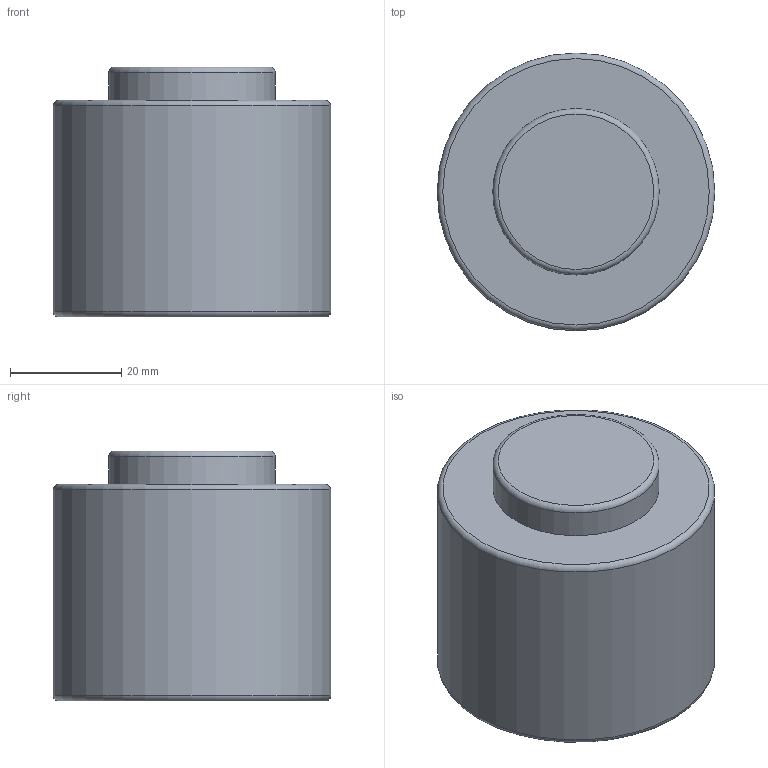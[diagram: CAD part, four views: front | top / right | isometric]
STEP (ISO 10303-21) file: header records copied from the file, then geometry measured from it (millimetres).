
FILE_DESCRIPTION(/* description */ (''),/* implementation_level */ '2;1');
FILE_NAME(/* name */ 'NV5-SMLX.50x5.stp',/* time_stamp */ '2018-08-31T16:08:33+02:00',/* author */ (''),/* organization */ (''),/* preprocessor_version */ 'ST-DEVELOPER v16',/* originating_system */ 'SIEMENS PLM Software NX 10.0',/* authorisation */ '');
FILE_SCHEMA (('AUTOMOTIVE_DESIGN { 1 0 10303 214 3 1 1 1 }'));
Length unit declared in the file: millimetre
Products named in the file (1): NV5-SMLX.50x5
Bounding box: 50 x 50 x 45 mm (x, y, z)
Volume: 79717.8 mm3; surface area: 10905.4 mm2
Topology: 1 solids, 1 shells, 10 faces, 18 edges, 11 vertices
Faces by surface type: cylinder 3, torus 3, plane 3, cone 1
Full cylindrical faces by diameter (mm): 8.5 x1, 30 x1, 50 x1
Entity records: 222 total; most frequent: DIRECTION 40, CARTESIAN_POINT 30, AXIS2_PLACEMENT_3D 20, FACE_BOUND 18, EDGE_LOOP 18, ORIENTED_EDGE 18, ADVANCED_FACE 10, VERTEX_POINT 10
